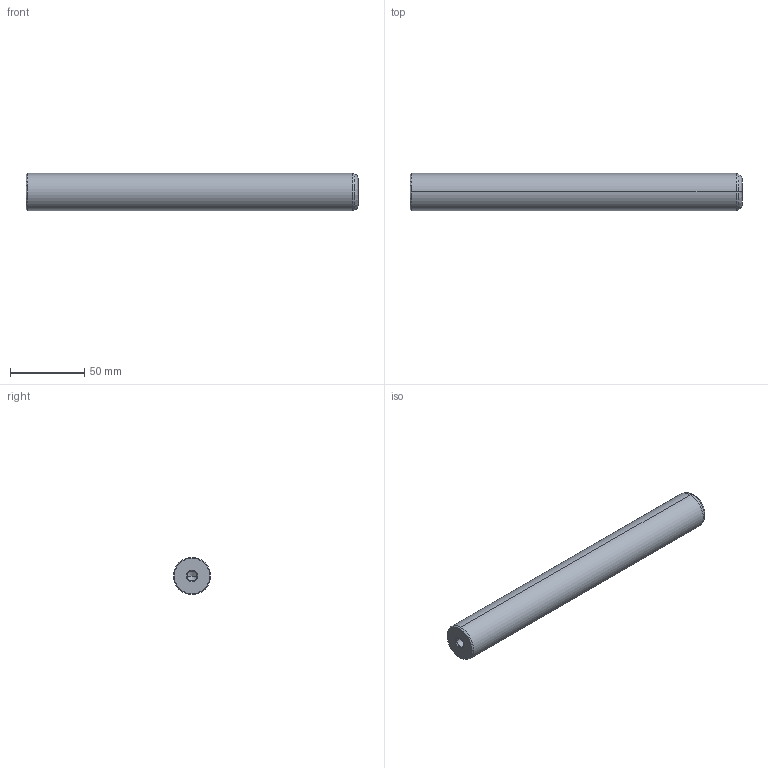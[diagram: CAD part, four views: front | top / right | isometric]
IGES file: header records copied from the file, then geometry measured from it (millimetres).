
Start section: START RECORD GO HERE.
Global section: file name: 720-25x224.igs; native system: DASSAULT SYSTEMES CATIA V5 R20 - www.3ds.com; preprocessor: CATIA Version 5 Release 20 ; author: Utente; organization: NB04-ASUS; date: 20210101.134103; units: millimetre
Bounding box: 224 x 25 x 25 mm (x, y, z)
Surface area: 19403.6 mm2 (no closed solid volume)
Topology: 0 solids, 0 shells, 22 faces, 108 edges, 104 vertices
Faces by surface type: revolution 20, plane 2
